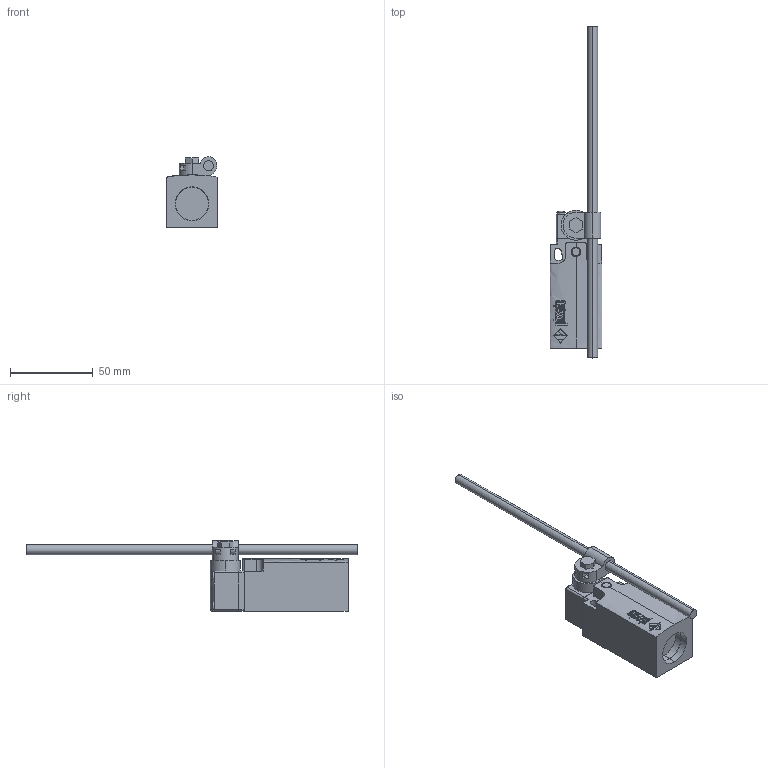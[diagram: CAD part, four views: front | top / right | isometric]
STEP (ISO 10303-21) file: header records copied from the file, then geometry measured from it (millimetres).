
FILE_DESCRIPTION (( 'STEP AP203' ), '1' );
FILE_NAME ('ZF_STEP_FM_x69.STEP', '2024-01-22T11:10:42', ( '' ), ( '' ), 'SwSTEP 2.0', 'SolidWorks 2020', '' );
FILE_SCHEMA (( 'CONFIG_CONTROL_DESIGN' ));
Length unit declared in the file: millimetre
Products named in the file (9): Pizzato_Asta_Ø6x200; ZF_STEP_VN_A00LH; ZF_STEP_VF_TE38; Pizzato_Supporto_leve_6325_Versione per aste; ZF_STEP_FM_x69; Pizzato_vite_Per aste; Pizzato_Custodia_FM_3dweb; Pizzato_Supporto_TE38
Assembly tree (8 placements, depth 3):
  ZF_STEP_FM_x69
    Pizzato_Custodia_FM_3dweb
      Pizzato_Custodia_FM_3dweb
    ZF_STEP_VF_TE38
      Pizzato_Supporto_TE38
    ZF_STEP_VN_A00LH
      Pizzato_Supporto_leve_6325_Versione per aste
      Pizzato_vite_Per aste
      Pizzato_Asta_Ø6x200
Bounding box: 31.2 x 200 x 42.6 mm (x, y, z)
Volume: 75815.5 mm3; surface area: 22003 mm2
Topology: 5 solids, 5 shells, 432 faces, 1179 edges, 784 vertices
Faces by surface type: plane 241, cylinder 137, bspline 45, sphere 8, torus 1
Entity records: 15233 total; most frequent: CARTESIAN_POINT 3480, ORIENTED_EDGE 2358, DIRECTION 2122, EDGE_CURVE 1179, VERTEX_POINT 784, LINE 726, VECTOR 726, AXIS2_PLACEMENT_3D 698
